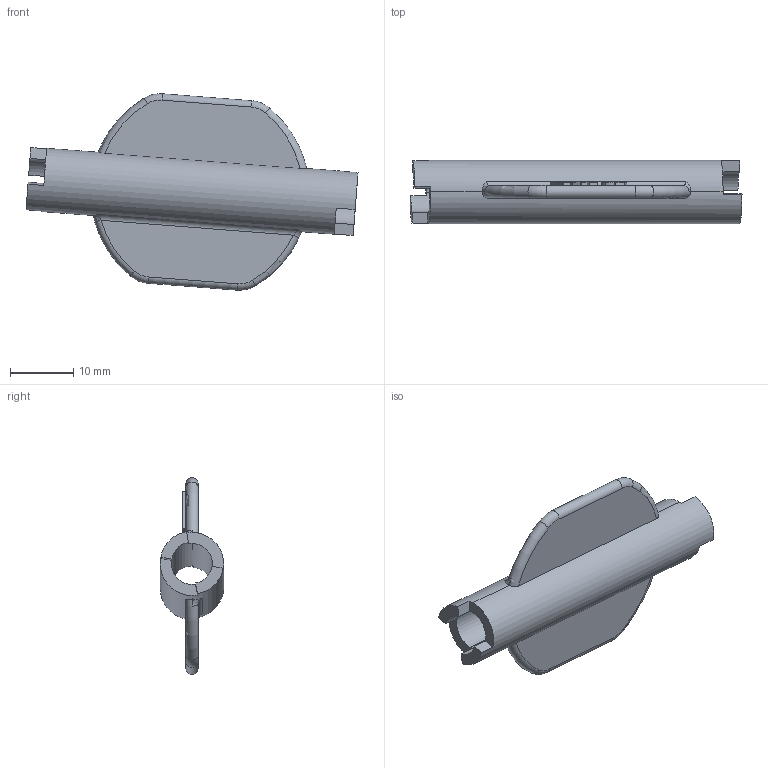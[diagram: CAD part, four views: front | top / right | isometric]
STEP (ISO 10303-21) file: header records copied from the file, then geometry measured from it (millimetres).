
FILE_DESCRIPTION((''),'2;1');
FILE_NAME('0000237131_PRT','2025-11-12T18:36:32',('Wyndorps'),(''),'CREO PARAMETRIC BY PTC INC, 2025010','CREO PARAMETRIC BY PTC INC, 2025010','');
FILE_SCHEMA(('CONFIG_CONTROL_DESIGN'));
Length unit declared in the file: millimetre
Products named in the file (1): 0000237131_PRT
Bounding box: 52.36 x 10 x 30.96 mm (x, y, z)
Volume: 3287.4 mm3; surface area: 3742.8 mm2
Topology: 1 solids, 1 shells, 93 faces, 256 edges, 168 vertices
Faces by surface type: plane 46, extrusion 23, cylinder 12, torus 8, bspline 4
Entity records: 3436 total; most frequent: CARTESIAN_POINT 1117, ORIENTED_EDGE 512, DIRECTION 401, EDGE_CURVE 256, VERTEX_POINT 168, VECTOR 157, LINE 134, AXIS2_PLACEMENT_3D 122
